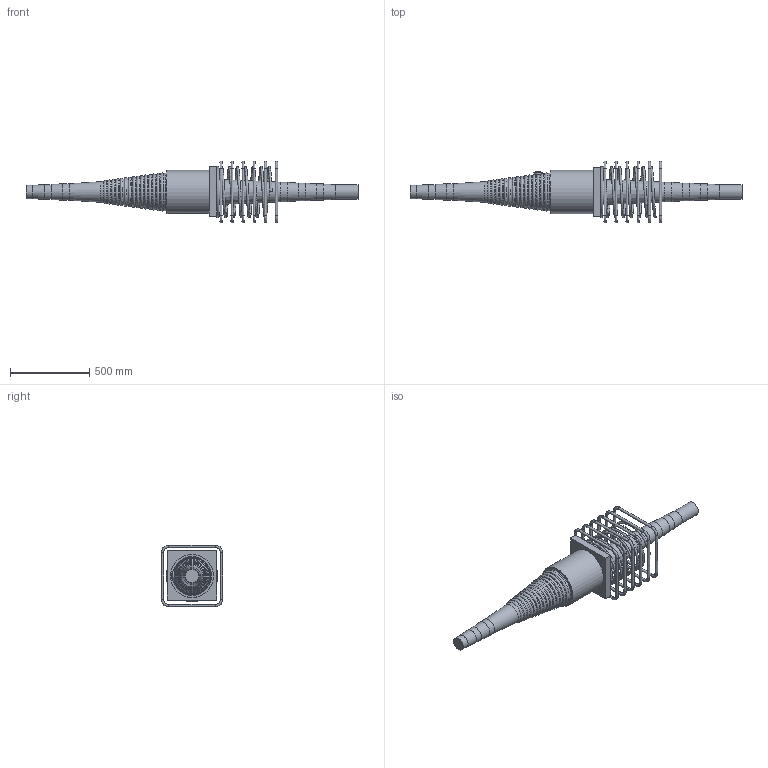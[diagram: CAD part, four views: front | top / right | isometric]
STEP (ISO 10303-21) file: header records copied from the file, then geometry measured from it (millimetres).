
FILE_DESCRIPTION(/* description */ (''),/* implementation_level */ '2;1');
FILE_NAME(/* name */ 'Z:\04 Publications\05 Give-out\BBR\6_3D_Models\BBR VT CONA CMI\BBR VT CONA CMI SP\01506\BBR VT CONA CMI SP 1506_Coupler H Assembly_CS-34,28.stp',/* time_stamp */ '2017-05-05T15:37:31+02:00',/* author */ ('IP'),/* organization */ (''),/* preprocessor_version */ 'ST-DEVELOPER v16.1',/* originating_system */ 'Autodesk Inventor 2016',/* authorisation */ '');
FILE_SCHEMA (('AUTOMOTIVE_DESIGN { 1 0 10303 214 3 1 1 }'));
Products named in the file (1): BBR VT CONA CMI SP 1506_Coupler H Assembly_CS-34,28
Bounding box: 2099 x 390 x 390 mm (x, y, z)
Volume: 49880619.9 mm3; surface area: 1957904.7 mm2
Topology: 8 solids, 8 shells, 869 faces, 2266 edges, 1459 vertices
Faces by surface type: bspline 412, plane 262, cylinder 97, torus 81, cone 17
Full cylindrical faces by diameter (mm): 16 x24, 34 x1, 57 x1, 84 x1, 91.725 x1, 94 x1, 101.793 x1, 104 x1, 111.862 x1, 121.932 x1, 273 x1
Entity records: 39460 total; most frequent: CARTESIAN_POINT 20953, ORIENTED_EDGE 4260, DIRECTION 2612, EDGE_CURVE 2129, VERTEX_POINT 1454, EDGE_LOOP 1062, LINE 910, VECTOR 910
